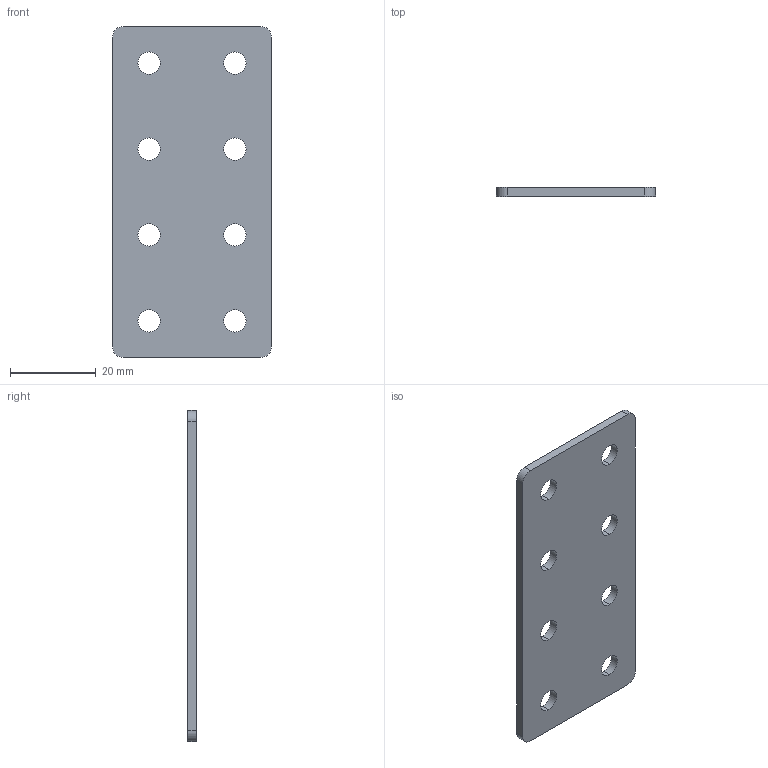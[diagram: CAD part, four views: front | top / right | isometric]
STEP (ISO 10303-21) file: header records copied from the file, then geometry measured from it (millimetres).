
FILE_DESCRIPTION (( 'STEP AP203' ), '1' );
FILE_NAME ('ﾏ-8-20.STEP', '2016-07-23T15:21:58', ( '' ), ( '' ), 'SwSTEP 2.0', 'SolidWorks 2014', '' );
FILE_SCHEMA (( 'CONFIG_CONTROL_DESIGN' ));
Length unit declared in the file: millimetre
Products named in the file (1): ﾏ-8-20
Bounding box: 37 x 2 x 77 mm (x, y, z)
Surface area: 6056.3 mm2 (no closed solid volume)
Topology: 0 solids, 1 shells, 26 faces, 72 edges, 48 vertices
Faces by surface type: cylinder 20, plane 6
Entity records: 965 total; most frequent: DIRECTION 166, CARTESIAN_POINT 147, ORIENTED_EDGE 144, EDGE_CURVE 72, AXIS2_PLACEMENT_3D 67, VERTEX_POINT 48, EDGE_LOOP 42, CIRCLE 40
